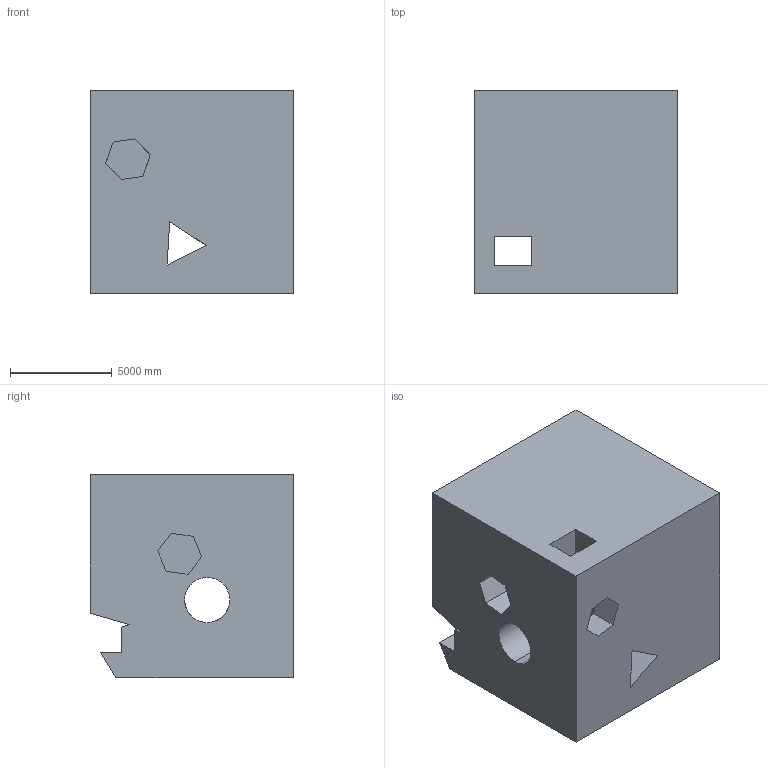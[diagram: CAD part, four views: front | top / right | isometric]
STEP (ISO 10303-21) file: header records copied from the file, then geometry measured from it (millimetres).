
FILE_DESCRIPTION (( 'STEP AP203' ), '1' );
FILE_NAME ('1850.STEP', '2022-08-19T13:31:37', ( 'user' ), ( '' ), 'SwSTEP 2.0', 'SolidWorks 2021', '' );
FILE_SCHEMA (( 'CONFIG_CONTROL_DESIGN' ));
Length unit declared in the file: centimetre
Products named in the file (1): 1850
Bounding box: 10000 x 10000 x 10000 mm (x, y, z)
Volume: 839991838457 mm3; surface area: 828260163.5 mm2
Topology: 1 solids, 1 shells, 44 faces, 135 edges, 90 vertices
Faces by surface type: plane 41, cylinder 3
Entity records: 1582 total; most frequent: CARTESIAN_POINT 282, ORIENTED_EDGE 270, DIRECTION 227, EDGE_CURVE 135, LINE 125, VECTOR 125, VERTEX_POINT 90, EDGE_LOOP 51
